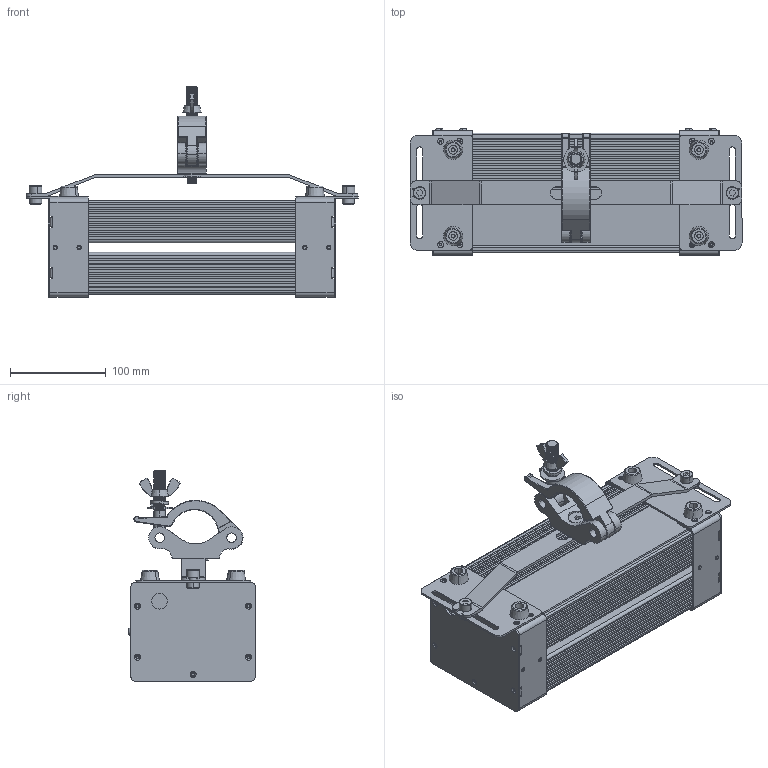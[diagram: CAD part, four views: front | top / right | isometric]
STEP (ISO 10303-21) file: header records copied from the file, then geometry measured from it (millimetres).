
FILE_DESCRIPTION (( 'STEP AP214' ), '1' );
FILE_NAME ('PSU277_CLP.STEP', '2024-02-29T19:30:06', ( '' ), ( '' ), 'SwSTEP 2.0', 'SolidWorks 2022', '' );
FILE_SCHEMA (( 'AUTOMOTIVE_DESIGN' ));
Length unit declared in the file: millimetre
Products named in the file (13): 5021745-200429010465_Plastic Foot, GL-4A, OD20 ID4.2 H10.4, Black___^W2K 277V Power Supply_TYPE-B_W2KX-CLP.STEP; 5022652-XXX_A1_Sheet Metal Part-A, 120x2x65mm___^W2K 277V Power Supply_TYPE-B_W2KX-CLP.STEP; 62280-2163008 SCREW, M3 L8 FLAT HEAD, TORX, SUS, BLACK___^W2K 277V Power Supply_TYPE-B_W2KX-CLP.STEP; 5021736-006_A2_Aluminum Hook, M12_Original^W2K 277V Power Supply_TYPE-B_W2KX-CLP.STEP; 5022654-XXX_A1_Sheet Metal Part-C, 130x2x103.4mm___^W2K 277V Power Supply_TYPE-B_W2KX-CLP.STEP; 5022650-XXX_A2_HandBar for 277V, 346.7x25x23mm___^W2K 277V Power Supply_TYPE-B_W2KX-CLP.STEP; PSU277_CLP; 5022653-XXX_A1_Sheet Metal Part-B, 130x40x103.4mm___^W2K 277V Power Supply_TYPE-B_W2KX-CLP.STEP; W2K 277V Power Supply_TYPE-B^W2KX-CLP.STEP; 5022654-XXX_A1_Sheet Metal Part-C, 130x2x103.4mm_AC^W2K 277V Power Supply_TYPE-B_W2KX-CLP.STEP; SCREW, M8 L8 CAP HEAD, HEX SOCKET, SUS, BLACK___^W2K 277V Power Supply_TYPE-B_W2KX-CLP.STEP; HLG-480H_Power Supply___^W2K 277V Power Supply_TYPE-B_W2KX-CLP.STEP; 62280-3364010 SCREW, M4 L10 PAN HEAD, HEX SOCKET, Threadlocking, SUS, BLACK___^W2K 277V Power Supply_TYPE-B_W2KX-CLP.STEP
Assembly tree (27 placements, depth 3):
  PSU277_CLP
    W2K 277V Power Supply_TYPE-B^W2KX-CLP.STEP
      HLG-480H_Power Supply___^W2K 277V Power Supply_TYPE-B_W2KX-CLP.STEP  x2
      5022653-XXX_A1_Sheet Metal Part-B, 130x40x103.4mm___^W2K 277V Power Supply_TYPE-B_W2KX-CLP.STEP  x2
      5022652-XXX_A1_Sheet Metal Part-A, 120x2x65mm___^W2K 277V Power Supply_TYPE-B_W2KX-CLP.STEP  x2
      5022654-XXX_A1_Sheet Metal Part-C, 130x2x103.4mm___^W2K 277V Power Supply_TYPE-B_W2KX-CLP.STEP
      62280-3364010 SCREW, M4 L10 PAN HEAD, HEX SOCKET, Threadlocking, SUS, BLACK___^W2K 277V Power Supply_TYPE-B_W2KX-CLP.STEP  x4
      5022654-XXX_A1_Sheet Metal Part-C, 130x2x103.4mm_AC^W2K 277V Power Supply_TYPE-B_W2KX-CLP.STEP
      62280-2163008 SCREW, M3 L8 FLAT HEAD, TORX, SUS, BLACK___^W2K 277V Power Supply_TYPE-B_W2KX-CLP.STEP  x6
      5021745-200429010465_Plastic Foot, GL-4A, OD20 ID4.2 H10.4, Black___^W2K 277V Power Supply_TYPE-B_W2KX-CLP.STEP  x4
      5022650-XXX_A2_HandBar for 277V, 346.7x25x23mm___^W2K 277V Power Supply_TYPE-B_W2KX-CLP.STEP
      SCREW, M8 L8 CAP HEAD, HEX SOCKET, SUS, BLACK___^W2K 277V Power Supply_TYPE-B_W2KX-CLP.STEP  x2
      5021736-006_A2_Aluminum Hook, M12_Original^W2K 277V Power Supply_TYPE-B_W2KX-CLP.STEP
Bounding box: 346.7 x 132.2 x 219.56 mm (x, y, z)
Volume: 2755675.5 mm3; surface area: 451690.9 mm2
Topology: 33 solids, 33 shells, 1610 faces, 4381 edges, 2844 vertices
Faces by surface type: cylinder 730, plane 699, cone 67, torus 64, bspline 32, sphere 18
Entity records: 70216 total; most frequent: CARTESIAN_POINT 47413, ORIENTED_EDGE 4778, DIRECTION 4490, EDGE_CURVE 2389, AXIS2_PLACEMENT_3D 1571, VERTEX_POINT 1542, VECTOR 1348, LINE 1348
